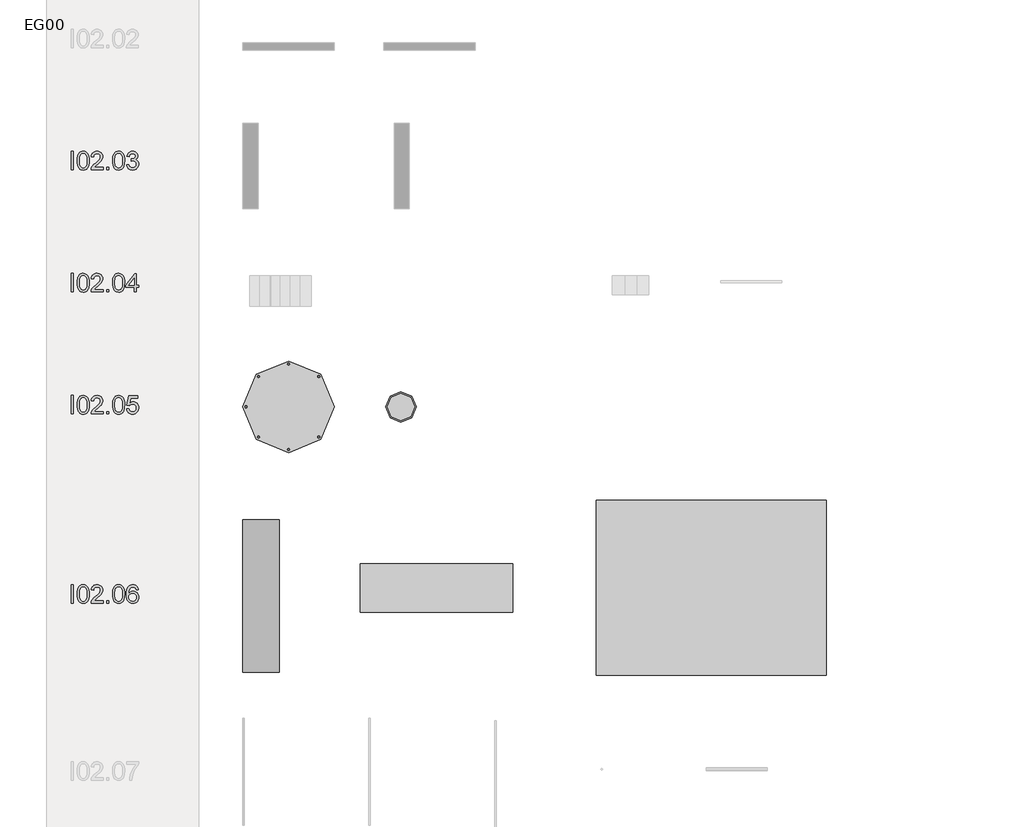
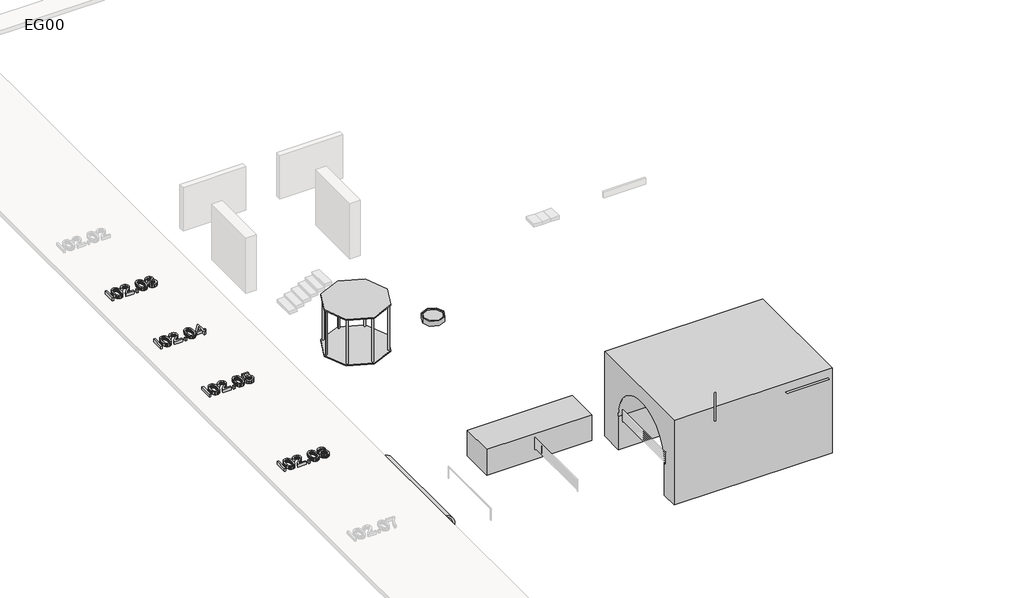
# One storey, part 10 of 11: 9 proxies.
"""IFC4 building model written with IfcOpenShell, lengths in millimetres."""

from ifc_helpers import new_model, si_unit, origin, origin_with_axes, place, context, project, spatial, polyline, outline, extrude, transform, mapped, element, save
from components import entourage_04cd11f9, generic_models_ce5f1fb5, generic_models_93f284b6, generic_models_26918fe7, generic_models_3f7ea370

model = new_model("IFC4")

# Units and contexts
model_context = context("Model", 3, world=origin())
ifc_project = project(units=[si_unit("LENGTHUNIT", "METRE", prefix="MILLI")], contexts=[model_context])

# Site, building, storey
site = spatial("IfcSite", under=ifc_project)
building = spatial("IfcBuilding", under=site)
storey = spatial("IfcBuildingStorey", under=building, Name="EG00", Elevation=0.0)

# Proxies
placement = place(None, origin())
entourage_shape = entourage_04cd11f9(model_context)
element("IfcBuildingElementProxy", 1, Name="Pavillon, Unterstand, Schuppen und dgl. : Pavillon, Unterstand, Schuppen und dgl.", ObjectType="Pavillon, Unterstand, Schuppen und dgl. : Pavillon, Unterstand, Schuppen und dgl.", at=placement, inside=storey, context=model_context, shape_type="MappedRepresentation", body=[
    mapped(entourage_shape, transform((48222.626143, -17838.697095, 10.0), x_axis=(-1.0, 0.0, 0.0), y_axis=(0.0, -1.0, 0.0), z_axis=(0.0, 0.0, 1.0))),
])
generic_models_shape = generic_models_ce5f1fb5(model_context)
element("IfcBuildingElementProxy", 2, Name="Wasserbecken : Wasserbecken", ObjectType="Wasserbecken : Wasserbecken", at=placement, inside=storey, context=model_context, shape_type="MappedRepresentation", body=[
    mapped(generic_models_shape, transform((51903.0325552, -17838.697095, 0.0), x_axis=(-1.0, 0.0, 0.0), y_axis=(0.0, -1.0, 0.0), z_axis=(0.0, 0.0, 1.0))),
])
generic_models_2_shape = generic_models_93f284b6(model_context)
element("IfcBuildingElementProxy", 3, Name="Stollen : Stollen", ObjectType="Stollen : Stollen", at=placement, inside=storey, context=model_context, shape_type="MappedRepresentation", body=[
    mapped(generic_models_2_shape, transform((58310.5909855, -26635.697095, 0.0), x_axis=(-1.0, 0.0, 0.0), y_axis=(0.0, -1.0, 0.0), z_axis=(0.0, 0.0, 1.0))),
])
generic_models_3_shape = generic_models_26918fe7(model_context)
element("IfcBuildingElementProxy", 4, Name="Fluchtröhre : Fluchtröhre", ObjectType="Fluchtröhre : Fluchtröhre", at=placement, inside=storey, context=model_context, shape_type="MappedRepresentation", body=[
    mapped(generic_models_3_shape, transform((47322.626143, -20832.697095, 0.0), x_axis=(-1.0, 0.0, 0.0), y_axis=(0.0, -1.0, 0.0), z_axis=(0.0, 0.0, 1.0))),
])
generic_models_4_shape = generic_models_3f7ea370(model_context)
element("IfcBuildingElementProxy", 5, Name="Brunnenstube : Brunnenstube", ObjectType="Brunnenstube : Brunnenstube", at=placement, inside=storey, context=model_context, shape_type="MappedRepresentation", body=[
    mapped(generic_models_4_shape, transform((50571.5909855, -24575.697095, 0.0), x_axis=(-1.0, 0.0, 0.0), y_axis=(0.0, -1.0, 0.0), z_axis=(0.0, 0.0, 1.0))),
])
element("IfcBuildingElementProxy", 6, Name="600mm Arial", ObjectType="600mm Arial", at=placement, inside=storey, context=model_context, shape_type="SweptSolid", body=[
    extrude(outline(polyline([(41098.4530284, -10070.0529019), (41098.4530284, -9467.315041), (41173.795261, -9467.315041), (41173.795261, -10070.0529019), (41098.4530284, -10070.0529019)])), origin_with_axes(), (0.0, 0.0, 1.0), 150.0),
    extrude(outline(polyline([(41296.226389, -9773.5400137), (41301.763013, -9677.0629605), (41308.6837931, -9636.1498841), (41318.3728851, -9600.1204412), (41330.7889025, -9568.6803262), (41345.8904584, -9541.5352335), (41363.6775528, -9518.6851631), (41384.1501859, -9500.1301149), (41407.3773353, -9485.7735201), (41433.4279791, -9475.5188095), (41462.3021172, -9469.3659831), (41493.9997496, -9467.315041), (41540.4264574, -9472.1710833), (41581.9971229, -9486.7392103), (41616.7619714, -9510.4492049), (41642.7712285, -9542.73085), (41662.416127, -9583.308234), (41678.0879, -9631.9054456), (41688.3518077, -9693.6176503), (41691.7731102, -9773.5400137), (41686.2916685, -9869.465244), (41679.4398663, -9910.2403646), (41669.8473433, -9946.2238223), (41657.527895, -9977.6777329), (41642.495317, -10004.8642123), (41624.7496092, -10027.7832606), (41604.2907718, -10046.4348778), (41581.0360312, -10060.8880417), (41554.9026139, -10071.2117301), (41525.8905201, -10077.4059432), (41493.9997496, -10079.4706809), (41452.5026606, -10075.8838315), (41415.7144611, -10065.1232831), (41383.6351511, -10047.1890359), (41356.2647306, -10022.0810897), (41329.9979562, -9976.6936485), (41311.2359744, -9920.1409888), (41299.9787854, -9852.4231106), (41296.226389, -9773.5400137)]), holes=[polyline([(41371.5686216, -9773.3928609), (41373.7759136, -9838.8896517), (41380.3977895, -9891.9060457), (41391.4342494, -9932.442043), (41406.8852932, -9960.4976437), (41425.5736985, -9979.5861207), (41446.3222431, -9993.2207472), (41469.1309268, -10001.401523), (41493.9997496, -10004.1284483), (41518.8685725, -10001.392326), (41541.6772562, -9993.183959), (41562.4258007, -9979.5033473), (41581.1142061, -9960.3504909), (41596.5652499, -9932.248905), (41607.6017097, -9891.7221047), (41614.2235857, -9838.77009), (41616.4308776, -9773.3928609), (41614.2971621, -9709.6297141), (41607.8960153, -9657.5468207), (41597.2274375, -9617.1441805), (41582.2914285, -9588.4217938), (41563.9157228, -9568.3998162), (41542.928055, -9554.0984036), (41519.328425, -9545.5175561), (41493.1168328, -9542.6572736), (41468.3767687, -9545.1772652), (41445.9543611, -9552.7372402), (41425.84961, -9565.3371986), (41408.0625156, -9582.9771402), (41392.096437, -9614.2471098), (41380.6920951, -9656.4063865), (41373.84949, -9709.4549702), (41371.5686216, -9773.3928609)])]), origin_with_axes(), (0.0, 0.0, 1.0), 150.0),
    extrude(outline(polyline([(42143.8265059, -9994.7106692), (42143.8265059, -10070.0529019), (41748.2797847, -10070.0529019), (41749.9352537, -10043.52861), (41756.3731886, -10018.1079641), (41774.9512293, -9977.512186), (41802.1377088, -9938.1304184), (41841.4642941, -9896.9092408), (41896.4626524, -9850.7952327), (41977.7645733, -9778.5799971), (42026.5457258, -9725.273896), (42040.773562, -9703.4952819), (42050.9363021, -9682.0109733), (42057.0339462, -9660.8209704), (42059.0664942, -9639.9252731), (42057.1489093, -9620.266579), (42051.3961546, -9602.1989745), (42041.8082301, -9585.7224596), (42028.3851358, -9570.8370344), (42011.8718328, -9558.508389), (41993.013282, -9549.7022138), (41971.8094835, -9544.4185086), (41948.2604373, -9542.6572736), (41923.4513952, -9544.3771219), (41901.2635124, -9549.5366669), (41881.6967888, -9558.1359085), (41864.7512244, -9570.1748468), (41851.0430215, -9585.2488116), (41841.1883826, -9602.9531326), (41835.1873075, -9623.2878099), (41833.0397964, -9646.2528434), (41757.6975638, -9636.8350643), (41764.1768854, -9597.9407404), (41775.9629048, -9563.9576411), (41793.055622, -9534.8857664), (41815.455037, -9510.7251164), (41842.646115, -9491.7332084), (41874.1138211, -9478.1675598), (41909.8581555, -9470.0281707), (41949.8791181, -9467.315041), (41990.2587655, -9470.3316733), (42026.1962379, -9479.3815704), (42057.6915353, -9494.4647322), (42084.7446575, -9515.5811587), (42106.4726878, -9541.1673515), (42121.9927095, -9569.659812), (42131.3047225, -9601.0585403), (42134.4087268, -9635.3635364), (42131.0610007, -9671.3975778), (42121.0178222, -9706.8062198), (42103.1939395, -9742.8218672), (42076.5041008, -9780.6769245), (42033.958548, -9825.8712276), (41968.5675234, -9883.9046123), (41881.8945253, -9956.3773654), (41847.902229, -9994.7106692), (42143.8265059, -9994.7106692)])), origin_with_axes(), (0.0, 0.0, 1.0), 150.0),
    extrude(outline(polyline([(42256.8398548, -10070.0529019), (42256.8398548, -9994.7106692), (42332.1820874, -9994.7106692), (42332.1820874, -10070.0529019), (42256.8398548, -10070.0529019)])), origin_with_axes(), (0.0, 0.0, 1.0), 150.0),
    extrude(outline(polyline([(42454.6132154, -9773.5400137), (42460.1498395, -9677.0629605), (42467.0706195, -9636.1498841), (42476.7597115, -9600.1204412), (42489.1757289, -9568.6803262), (42504.2772848, -9541.5352335), (42522.0643792, -9518.6851631), (42542.5370123, -9500.1301149), (42565.7641618, -9485.7735201), (42591.8148055, -9475.5188095), (42620.6889436, -9469.3659831), (42652.386576, -9467.315041), (42698.8132838, -9472.1710833), (42740.3839493, -9486.7392103), (42775.1487978, -9510.4492049), (42801.1580549, -9542.73085), (42820.8029534, -9583.308234), (42836.4747264, -9631.9054456), (42846.7386341, -9693.6176503), (42850.1599366, -9773.5400137), (42844.6784949, -9869.465244), (42837.8266928, -9910.2403646), (42828.2341697, -9946.2238223), (42815.9147214, -9977.6777329), (42800.8821434, -10004.8642123), (42783.1364357, -10027.7832606), (42762.6775982, -10046.4348778), (42739.4228576, -10060.8880417), (42713.2894403, -10071.2117301), (42684.2773465, -10077.4059432), (42652.386576, -10079.4706809), (42610.889487, -10075.8838315), (42574.1012875, -10065.1232831), (42542.0219775, -10047.1890359), (42514.651557, -10022.0810897), (42488.3847826, -9976.6936485), (42469.6228008, -9920.1409888), (42458.3656118, -9852.4231106), (42454.6132154, -9773.5400137)]), holes=[polyline([(42529.955448, -9773.3928609), (42532.16274, -9838.8896517), (42538.7846159, -9891.9060457), (42549.8210758, -9932.442043), (42565.2721196, -9960.4976437), (42583.9605249, -9979.5861207), (42604.7090695, -9993.2207472), (42627.5177532, -10001.401523), (42652.386576, -10004.1284483), (42677.2553989, -10001.392326), (42700.0640826, -9993.183959), (42720.8126271, -9979.5033473), (42739.5010325, -9960.3504909), (42754.9520763, -9932.248905), (42765.9885362, -9891.7221047), (42772.6104121, -9838.77009), (42774.817704, -9773.3928609), (42772.6839885, -9709.6297141), (42766.2828417, -9657.5468207), (42755.6142639, -9617.1441805), (42740.6782549, -9588.4217938), (42722.3025492, -9568.3998162), (42701.3148814, -9554.0984036), (42677.7152514, -9545.5175561), (42651.5036593, -9542.6572736), (42626.7635951, -9545.1772652), (42604.3411875, -9552.7372402), (42584.2364364, -9565.3371986), (42566.449342, -9582.9771402), (42550.4832634, -9614.2471098), (42539.0789215, -9656.4063865), (42532.2363164, -9709.4549702), (42529.955448, -9773.3928609)])]), origin_with_axes(), (0.0, 0.0, 1.0), 150.0),
    extrude(outline(polyline([(42916.0843902, -9909.9506576), (42991.4266228, -9900.5328785), (43008.2940123, -9947.8792913), (43019.6661644, -9965.7859474), (43032.9972882, -9979.8482366), (43048.5908863, -9990.4708293), (43066.7504613, -9998.0583954), (43087.4760132, -10002.6109351), (43110.767542, -10004.1284483), (43138.0643861, -10002.040718), (43162.4181742, -9995.777527), (43183.8289063, -9985.3388754), (43202.2965824, -9970.7247632), (43217.1682121, -9953.0296392), (43227.7908047, -9933.3479525), (43234.1643603, -9911.6797029), (43236.2888788, -9888.0248906), (43234.1827544, -9865.496717), (43227.8643811, -9845.0010913), (43217.333759, -9826.5380137), (43202.590888, -9810.1074841), (43184.6014585, -9796.6200104), (43164.3311605, -9786.9861007), (43141.7799942, -9781.2057548), (43116.9479595, -9779.2789729), (43093.1459945, -9781.339112), (43064.120105, -9787.5195296), (43072.5078145, -9712.177297), (43084.574344, -9713.0602137), (43129.7134648, -9707.6523484), (43170.0701197, -9691.4287524), (43186.6799917, -9679.1598879), (43198.5441861, -9663.9847556), (43205.6627027, -9645.9033555), (43208.0355416, -9624.9156877), (43206.3156932, -9607.8781528), (43201.1561482, -9592.3765252), (43192.5569066, -9578.410805), (43180.5179683, -9565.9809921), (43165.7659003, -9555.7768652), (43149.0272695, -9548.4882032), (43109.5903196, -9542.6572736), (43088.9337456, -9544.1288016), (43070.0797934, -9548.5433855), (43053.0284629, -9555.9010254), (43037.7797542, -9566.2017213), (43024.7107463, -9579.4454731), (43014.1985183, -9595.6322809), (43006.2430702, -9614.7621446), (43000.8444019, -9636.8350643), (42925.5021693, -9627.4172853), (42934.4325047, -9591.4476232), (42947.6854536, -9559.7637864), (42965.2610159, -9532.3657748), (42987.1591917, -9509.2535884), (43012.6902021, -9490.9054739), (43041.1642685, -9477.7996778), (43072.5813909, -9469.9362002), (43106.9415693, -9467.315041), (43154.3063762, -9472.483783), (43197.8084221, -9487.9900091), (43234.486257, -9512.4541618), (43261.3784309, -9544.4966836), (43277.8779383, -9581.4136418), (43283.3777742, -9620.5011038), (43278.1538498, -9656.9214213), (43262.4820768, -9689.9572244), (43236.5831844, -9718.1001971), (43200.6779017, -9739.842023), (43225.7858478, -9747.6963036), (43247.8403734, -9758.8983103), (43266.8414785, -9773.4480432), (43282.789163, -9791.3455023), (43295.4075154, -9812.1492291), (43304.4206243, -9835.4177653), (43309.8284896, -9861.1511109), (43311.6311114, -9889.3492658), (43308.0258678, -9927.5722051), (43297.2101372, -9962.7785121), (43279.1839194, -9994.9681866), (43253.9472146, -10024.1412289), (43223.2014768, -10048.3478641), (43188.6481604, -10065.6383179), (43150.2872654, -10076.0125902), (43108.1187917, -10079.4706809), (43070.006217, -10076.5184279), (43035.2781566, -10067.6616689), (43003.9346106, -10052.9004038), (42975.975579, -10032.2346328), (42952.5322989, -10006.8783662), (42934.7360073, -9978.0456149), (42922.5867044, -9945.7363786), (42916.0843902, -9909.9506576)])), origin_with_axes(), (0.0, 0.0, 1.0), 150.0),
])
element("IfcBuildingElementProxy", 7, Name="600mm Arial", ObjectType="600mm Arial", at=placement, inside=storey, context=model_context, shape_type="SweptSolid", body=[
    extrude(outline(polyline([(41098.4530284, -14070.0529019), (41098.4530284, -13467.315041), (41173.795261, -13467.315041), (41173.795261, -14070.0529019), (41098.4530284, -14070.0529019)])), origin_with_axes(), (0.0, 0.0, 1.0), 150.0),
    extrude(outline(polyline([(41296.226389, -13773.5400137), (41301.763013, -13677.0629605), (41308.6837931, -13636.1498841), (41318.3728851, -13600.1204412), (41330.7889025, -13568.6803262), (41345.8904584, -13541.5352335), (41363.6775528, -13518.6851631), (41384.1501859, -13500.1301149), (41407.3773353, -13485.7735201), (41433.4279791, -13475.5188095), (41462.3021172, -13469.3659831), (41493.9997496, -13467.315041), (41540.4264574, -13472.1710833), (41581.9971229, -13486.7392103), (41616.7619714, -13510.4492049), (41642.7712285, -13542.73085), (41662.416127, -13583.308234), (41678.0879, -13631.9054456), (41688.3518077, -13693.6176503), (41691.7731102, -13773.5400137), (41686.2916685, -13869.465244), (41679.4398663, -13910.2403646), (41669.8473433, -13946.2238223), (41657.527895, -13977.6777329), (41642.495317, -14004.8642123), (41624.7496092, -14027.7832606), (41604.2907718, -14046.4348778), (41581.0360312, -14060.8880417), (41554.9026139, -14071.2117301), (41525.8905201, -14077.4059432), (41493.9997496, -14079.4706809), (41452.5026606, -14075.8838315), (41415.7144611, -14065.1232831), (41383.6351511, -14047.1890359), (41356.2647306, -14022.0810897), (41329.9979562, -13976.6936485), (41311.2359744, -13920.1409888), (41299.9787854, -13852.4231106), (41296.226389, -13773.5400137)]), holes=[polyline([(41371.5686216, -13773.3928609), (41373.7759136, -13838.8896517), (41380.3977895, -13891.9060457), (41391.4342494, -13932.442043), (41406.8852932, -13960.4976437), (41425.5736985, -13979.5861207), (41446.3222431, -13993.2207472), (41469.1309268, -14001.401523), (41493.9997496, -14004.1284483), (41518.8685725, -14001.392326), (41541.6772562, -13993.183959), (41562.4258007, -13979.5033473), (41581.1142061, -13960.3504909), (41596.5652499, -13932.248905), (41607.6017097, -13891.7221047), (41614.2235857, -13838.77009), (41616.4308776, -13773.3928609), (41614.2971621, -13709.6297141), (41607.8960153, -13657.5468207), (41597.2274375, -13617.1441805), (41582.2914285, -13588.4217938), (41563.9157228, -13568.3998162), (41542.928055, -13554.0984036), (41519.328425, -13545.5175561), (41493.1168328, -13542.6572736), (41468.3767687, -13545.1772652), (41445.9543611, -13552.7372402), (41425.84961, -13565.3371986), (41408.0625156, -13582.9771402), (41392.096437, -13614.2471098), (41380.6920951, -13656.4063865), (41373.84949, -13709.4549702), (41371.5686216, -13773.3928609)])]), origin_with_axes(), (0.0, 0.0, 1.0), 150.0),
    extrude(outline(polyline([(42143.8265059, -13994.7106692), (42143.8265059, -14070.0529019), (41748.2797847, -14070.0529019), (41749.9352537, -14043.52861), (41756.3731886, -14018.1079641), (41774.9512293, -13977.512186), (41802.1377088, -13938.1304184), (41841.4642941, -13896.9092408), (41896.4626524, -13850.7952327), (41977.7645733, -13778.5799971), (42026.5457258, -13725.273896), (42040.773562, -13703.4952819), (42050.9363021, -13682.0109733), (42057.0339462, -13660.8209704), (42059.0664942, -13639.9252731), (42057.1489093, -13620.266579), (42051.3961546, -13602.1989745), (42041.8082301, -13585.7224596), (42028.3851358, -13570.8370344), (42011.8718328, -13558.508389), (41993.013282, -13549.7022138), (41971.8094835, -13544.4185086), (41948.2604373, -13542.6572736), (41923.4513952, -13544.3771219), (41901.2635124, -13549.5366669), (41881.6967888, -13558.1359085), (41864.7512244, -13570.1748468), (41851.0430215, -13585.2488116), (41841.1883826, -13602.9531326), (41835.1873075, -13623.2878099), (41833.0397964, -13646.2528434), (41757.6975638, -13636.8350643), (41764.1768854, -13597.9407404), (41775.9629048, -13563.9576411), (41793.055622, -13534.8857664), (41815.455037, -13510.7251164), (41842.646115, -13491.7332084), (41874.1138211, -13478.1675598), (41909.8581555, -13470.0281707), (41949.8791181, -13467.315041), (41990.2587655, -13470.3316733), (42026.1962379, -13479.3815704), (42057.6915353, -13494.4647322), (42084.7446575, -13515.5811587), (42106.4726878, -13541.1673515), (42121.9927095, -13569.659812), (42131.3047225, -13601.0585403), (42134.4087268, -13635.3635364), (42131.0610007, -13671.3975778), (42121.0178222, -13706.8062198), (42103.1939395, -13742.8218672), (42076.5041008, -13780.6769245), (42033.958548, -13825.8712276), (41968.5675234, -13883.9046123), (41881.8945253, -13956.3773654), (41847.902229, -13994.7106692), (42143.8265059, -13994.7106692)])), origin_with_axes(), (0.0, 0.0, 1.0), 150.0),
    extrude(outline(polyline([(42256.8398548, -14070.0529019), (42256.8398548, -13994.7106692), (42332.1820874, -13994.7106692), (42332.1820874, -14070.0529019), (42256.8398548, -14070.0529019)])), origin_with_axes(), (0.0, 0.0, 1.0), 150.0),
    extrude(outline(polyline([(42454.6132154, -13773.5400137), (42460.1498395, -13677.0629605), (42467.0706195, -13636.1498841), (42476.7597115, -13600.1204412), (42489.1757289, -13568.6803262), (42504.2772848, -13541.5352335), (42522.0643792, -13518.6851631), (42542.5370123, -13500.1301149), (42565.7641618, -13485.7735201), (42591.8148055, -13475.5188095), (42620.6889436, -13469.3659831), (42652.386576, -13467.315041), (42698.8132838, -13472.1710833), (42740.3839493, -13486.7392103), (42775.1487978, -13510.4492049), (42801.1580549, -13542.73085), (42820.8029534, -13583.308234), (42836.4747264, -13631.9054456), (42846.7386341, -13693.6176503), (42850.1599366, -13773.5400137), (42844.6784949, -13869.465244), (42837.8266928, -13910.2403646), (42828.2341697, -13946.2238223), (42815.9147214, -13977.6777329), (42800.8821434, -14004.8642123), (42783.1364357, -14027.7832606), (42762.6775982, -14046.4348778), (42739.4228576, -14060.8880417), (42713.2894403, -14071.2117301), (42684.2773465, -14077.4059432), (42652.386576, -14079.4706809), (42610.889487, -14075.8838315), (42574.1012875, -14065.1232831), (42542.0219775, -14047.1890359), (42514.651557, -14022.0810897), (42488.3847826, -13976.6936485), (42469.6228008, -13920.1409888), (42458.3656118, -13852.4231106), (42454.6132154, -13773.5400137)]), holes=[polyline([(42529.955448, -13773.3928609), (42532.16274, -13838.8896517), (42538.7846159, -13891.9060457), (42549.8210758, -13932.442043), (42565.2721196, -13960.4976437), (42583.9605249, -13979.5861207), (42604.7090695, -13993.2207472), (42627.5177532, -14001.401523), (42652.386576, -14004.1284483), (42677.2553989, -14001.392326), (42700.0640826, -13993.183959), (42720.8126271, -13979.5033473), (42739.5010325, -13960.3504909), (42754.9520763, -13932.248905), (42765.9885362, -13891.7221047), (42772.6104121, -13838.77009), (42774.817704, -13773.3928609), (42772.6839885, -13709.6297141), (42766.2828417, -13657.5468207), (42755.6142639, -13617.1441805), (42740.6782549, -13588.4217938), (42722.3025492, -13568.3998162), (42701.3148814, -13554.0984036), (42677.7152514, -13545.5175561), (42651.5036593, -13542.6572736), (42626.7635951, -13545.1772652), (42604.3411875, -13552.7372402), (42584.2364364, -13565.3371986), (42566.449342, -13582.9771402), (42550.4832634, -13614.2471098), (42539.0789215, -13656.4063865), (42532.2363164, -13709.4549702), (42529.955448, -13773.3928609)])]), origin_with_axes(), (0.0, 0.0, 1.0), 150.0),
    extrude(outline(polyline([(43160.9466462, -14070.0529019), (43160.9466462, -13928.7862157), (42887.831053, -13928.7862157), (42887.831053, -13853.4439831), (43179.7822043, -13476.73282), (43236.2888788, -13476.73282), (43236.2888788, -13853.4439831), (43311.6311114, -13853.4439831), (43311.6311114, -13928.7862157), (43236.2888788, -13928.7862157), (43236.2888788, -14070.0529019), (43160.9466462, -14070.0529019)]), holes=[polyline([(43160.9466462, -13853.4439831), (43160.9466462, -13620.6482566), (42980.5373157, -13853.4439831), (43160.9466462, -13853.4439831)])]), origin_with_axes(), (0.0, 0.0, 1.0), 150.0),
])
element("IfcBuildingElementProxy", 8, Name="600mm Arial", ObjectType="600mm Arial", at=placement, inside=storey, context=model_context, shape_type="SweptSolid", body=[
    extrude(outline(polyline([(41098.4530284, -18070.0529019), (41098.4530284, -17467.315041), (41173.795261, -17467.315041), (41173.795261, -18070.0529019), (41098.4530284, -18070.0529019)])), origin_with_axes(), (0.0, 0.0, 1.0), 150.0),
    extrude(outline(polyline([(41296.226389, -17773.5400137), (41301.763013, -17677.0629605), (41308.6837931, -17636.1498841), (41318.3728851, -17600.1204412), (41330.7889025, -17568.6803262), (41345.8904584, -17541.5352335), (41363.6775528, -17518.6851631), (41384.1501859, -17500.1301149), (41407.3773353, -17485.7735201), (41433.4279791, -17475.5188095), (41462.3021172, -17469.3659831), (41493.9997496, -17467.315041), (41540.4264574, -17472.1710833), (41581.9971229, -17486.7392103), (41616.7619714, -17510.4492049), (41642.7712285, -17542.73085), (41662.416127, -17583.308234), (41678.0879, -17631.9054456), (41688.3518077, -17693.6176503), (41691.7731102, -17773.5400137), (41686.2916685, -17869.465244), (41679.4398663, -17910.2403646), (41669.8473433, -17946.2238223), (41657.527895, -17977.6777329), (41642.495317, -18004.8642123), (41624.7496092, -18027.7832606), (41604.2907718, -18046.4348778), (41581.0360312, -18060.8880417), (41554.9026139, -18071.2117301), (41525.8905201, -18077.4059432), (41493.9997496, -18079.4706809), (41452.5026606, -18075.8838315), (41415.7144611, -18065.1232831), (41383.6351511, -18047.1890359), (41356.2647306, -18022.0810897), (41329.9979562, -17976.6936485), (41311.2359744, -17920.1409888), (41299.9787854, -17852.4231106), (41296.226389, -17773.5400137)]), holes=[polyline([(41371.5686216, -17773.3928609), (41373.7759136, -17838.8896517), (41380.3977895, -17891.9060457), (41391.4342494, -17932.442043), (41406.8852932, -17960.4976437), (41425.5736985, -17979.5861207), (41446.3222431, -17993.2207472), (41469.1309268, -18001.401523), (41493.9997496, -18004.1284483), (41518.8685725, -18001.392326), (41541.6772562, -17993.183959), (41562.4258007, -17979.5033473), (41581.1142061, -17960.3504909), (41596.5652499, -17932.248905), (41607.6017097, -17891.7221047), (41614.2235857, -17838.77009), (41616.4308776, -17773.3928609), (41614.2971621, -17709.6297141), (41607.8960153, -17657.5468207), (41597.2274375, -17617.1441805), (41582.2914285, -17588.4217938), (41563.9157228, -17568.3998162), (41542.928055, -17554.0984036), (41519.328425, -17545.5175561), (41493.1168328, -17542.6572736), (41468.3767687, -17545.1772652), (41445.9543611, -17552.7372402), (41425.84961, -17565.3371986), (41408.0625156, -17582.9771402), (41392.096437, -17614.2471098), (41380.6920951, -17656.4063865), (41373.84949, -17709.4549702), (41371.5686216, -17773.3928609)])]), origin_with_axes(), (0.0, 0.0, 1.0), 150.0),
    extrude(outline(polyline([(42143.8265059, -17994.7106692), (42143.8265059, -18070.0529019), (41748.2797847, -18070.0529019), (41749.9352537, -18043.52861), (41756.3731886, -18018.1079641), (41774.9512293, -17977.512186), (41802.1377088, -17938.1304184), (41841.4642941, -17896.9092408), (41896.4626524, -17850.7952327), (41977.7645733, -17778.5799971), (42026.5457258, -17725.273896), (42040.773562, -17703.4952819), (42050.9363021, -17682.0109733), (42057.0339462, -17660.8209704), (42059.0664942, -17639.9252731), (42057.1489093, -17620.266579), (42051.3961546, -17602.1989745), (42041.8082301, -17585.7224596), (42028.3851358, -17570.8370344), (42011.8718328, -17558.508389), (41993.013282, -17549.7022138), (41971.8094835, -17544.4185086), (41948.2604373, -17542.6572736), (41923.4513952, -17544.3771219), (41901.2635124, -17549.5366669), (41881.6967888, -17558.1359085), (41864.7512244, -17570.1748468), (41851.0430215, -17585.2488116), (41841.1883826, -17602.9531326), (41835.1873075, -17623.2878099), (41833.0397964, -17646.2528434), (41757.6975638, -17636.8350643), (41764.1768854, -17597.9407404), (41775.9629048, -17563.9576411), (41793.055622, -17534.8857664), (41815.455037, -17510.7251164), (41842.646115, -17491.7332084), (41874.1138211, -17478.1675598), (41909.8581555, -17470.0281707), (41949.8791181, -17467.315041), (41990.2587655, -17470.3316733), (42026.1962379, -17479.3815704), (42057.6915353, -17494.4647322), (42084.7446575, -17515.5811587), (42106.4726878, -17541.1673515), (42121.9927095, -17569.659812), (42131.3047225, -17601.0585403), (42134.4087268, -17635.3635364), (42131.0610007, -17671.3975778), (42121.0178222, -17706.8062198), (42103.1939395, -17742.8218672), (42076.5041008, -17780.6769245), (42033.958548, -17825.8712276), (41968.5675234, -17883.9046123), (41881.8945253, -17956.3773654), (41847.902229, -17994.7106692), (42143.8265059, -17994.7106692)])), origin_with_axes(), (0.0, 0.0, 1.0), 150.0),
    extrude(outline(polyline([(42256.8398548, -18070.0529019), (42256.8398548, -17994.7106692), (42332.1820874, -17994.7106692), (42332.1820874, -18070.0529019), (42256.8398548, -18070.0529019)])), origin_with_axes(), (0.0, 0.0, 1.0), 150.0),
    extrude(outline(polyline([(42454.6132154, -17773.5400137), (42460.1498395, -17677.0629605), (42467.0706195, -17636.1498841), (42476.7597115, -17600.1204412), (42489.1757289, -17568.6803262), (42504.2772848, -17541.5352335), (42522.0643792, -17518.6851631), (42542.5370123, -17500.1301149), (42565.7641618, -17485.7735201), (42591.8148055, -17475.5188095), (42620.6889436, -17469.3659831), (42652.386576, -17467.315041), (42698.8132838, -17472.1710833), (42740.3839493, -17486.7392103), (42775.1487978, -17510.4492049), (42801.1580549, -17542.73085), (42820.8029534, -17583.308234), (42836.4747264, -17631.9054456), (42846.7386341, -17693.6176503), (42850.1599366, -17773.5400137), (42844.6784949, -17869.465244), (42837.8266928, -17910.2403646), (42828.2341697, -17946.2238223), (42815.9147214, -17977.6777329), (42800.8821434, -18004.8642123), (42783.1364357, -18027.7832606), (42762.6775982, -18046.4348778), (42739.4228576, -18060.8880417), (42713.2894403, -18071.2117301), (42684.2773465, -18077.4059432), (42652.386576, -18079.4706809), (42610.889487, -18075.8838315), (42574.1012875, -18065.1232831), (42542.0219775, -18047.1890359), (42514.651557, -18022.0810897), (42488.3847826, -17976.6936485), (42469.6228008, -17920.1409888), (42458.3656118, -17852.4231106), (42454.6132154, -17773.5400137)]), holes=[polyline([(42529.955448, -17773.3928609), (42532.16274, -17838.8896517), (42538.7846159, -17891.9060457), (42549.8210758, -17932.442043), (42565.2721196, -17960.4976437), (42583.9605249, -17979.5861207), (42604.7090695, -17993.2207472), (42627.5177532, -18001.401523), (42652.386576, -18004.1284483), (42677.2553989, -18001.392326), (42700.0640826, -17993.183959), (42720.8126271, -17979.5033473), (42739.5010325, -17960.3504909), (42754.9520763, -17932.248905), (42765.9885362, -17891.7221047), (42772.6104121, -17838.77009), (42774.817704, -17773.3928609), (42772.6839885, -17709.6297141), (42766.2828417, -17657.5468207), (42755.6142639, -17617.1441805), (42740.6782549, -17588.4217938), (42722.3025492, -17568.3998162), (42701.3148814, -17554.0984036), (42677.7152514, -17545.5175561), (42651.5036593, -17542.6572736), (42626.7635951, -17545.1772652), (42604.3411875, -17552.7372402), (42584.2364364, -17565.3371986), (42566.449342, -17582.9771402), (42550.4832634, -17614.2471098), (42539.0789215, -17656.4063865), (42532.2363164, -17709.4549702), (42529.955448, -17773.3928609)])]), origin_with_axes(), (0.0, 0.0, 1.0), 150.0),
    extrude(outline(polyline([(42916.0843902, -17909.9506576), (42991.4266228, -17900.5328785), (42997.0552173, -17924.7533093), (43005.2589858, -17945.7639698), (43016.0379283, -17963.5648598), (43029.3920447, -17978.1559795), (43045.2937439, -17989.5189346), (43063.7154348, -17997.6353311), (43084.6571174, -18002.505169), (43108.1187917, -18004.1284483), (43136.8135873, -18001.8705726), (43162.1238686, -17995.0969453), (43184.0496355, -17983.8075666), (43202.590888, -17968.0024364), (43217.333759, -17948.4633039), (43227.8643811, -17925.9719184), (43234.1827544, -17900.52828), (43236.2888788, -17872.1323885), (43234.3161116, -17845.2953969), (43228.39781, -17821.4382495), (43218.533974, -17800.5609463), (43204.7246036, -17782.6634872), (43186.9237136, -17768.3068924), (43165.0853186, -17758.0521818), (43139.2094188, -17751.8993554), (43109.296014, -17749.8484133), (43072.7469378, -17753.122563), (43043.1508313, -17762.9450123), (43019.5144131, -17777.9913859), (43000.8444019, -17796.9373086), (42925.5021693, -17787.5195296), (42991.4266228, -17476.73282), (43283.3777742, -17476.73282), (43283.3777742, -17552.0750527), (43052.3478812, -17552.0750527), (43020.1214184, -17718.0634089), (43046.7100896, -17699.0071215), (43073.9425543, -17685.3954877), (43101.8188125, -17677.2285074), (43130.3388642, -17674.5061806), (43167.0304947, -17677.881498), (43200.733084, -17688.0074499), (43231.446632, -17704.8840364), (43259.1711389, -17728.5112575), (43282.1223769, -17757.4451765), (43298.5161183, -17790.2418563), (43308.3523631, -17826.9012971), (43311.6311114, -17867.4234989), (43308.6788584, -17906.4557786), (43299.8220994, -17942.7657315), (43285.0608343, -17976.3533577), (43264.3950632, -18007.2186571), (43233.0883054, -18038.8289175), (43196.5576233, -18061.407675), (43154.8030169, -18074.9549294), (43107.8244861, -18079.4706809), (43068.9439577, -18076.5690117), (43033.8250227, -18067.864004), (43002.4676812, -18053.3556578), (42974.871933, -18033.0439731), (42951.911498, -18007.9406255), (42934.4600958, -17979.0572904), (42922.5177266, -17946.3939677), (42916.0843902, -17909.9506576)])), origin_with_axes(), (0.0, 0.0, 1.0), 150.0),
])
element("IfcBuildingElementProxy", 9, Name="600mm Arial", ObjectType="600mm Arial", at=placement, inside=storey, context=model_context, shape_type="SweptSolid", body=[
    extrude(outline(polyline([(41098.4530284, -24270.0529019), (41098.4530284, -23667.315041), (41173.795261, -23667.315041), (41173.795261, -24270.0529019), (41098.4530284, -24270.0529019)])), origin_with_axes(), (0.0, 0.0, 1.0), 150.0),
    extrude(outline(polyline([(41296.226389, -23973.5400137), (41301.763013, -23877.0629605), (41308.6837931, -23836.1498841), (41318.3728851, -23800.1204412), (41330.7889025, -23768.6803262), (41345.8904584, -23741.5352335), (41363.6775528, -23718.6851631), (41384.1501859, -23700.1301149), (41407.3773353, -23685.7735201), (41433.4279791, -23675.5188095), (41462.3021172, -23669.3659831), (41493.9997496, -23667.315041), (41540.4264574, -23672.1710833), (41581.9971229, -23686.7392103), (41616.7619714, -23710.4492049), (41642.7712285, -23742.73085), (41662.416127, -23783.308234), (41678.0879, -23831.9054456), (41688.3518077, -23893.6176503), (41691.7731102, -23973.5400137), (41686.2916685, -24069.465244), (41679.4398663, -24110.2403646), (41669.8473433, -24146.2238223), (41657.527895, -24177.6777329), (41642.495317, -24204.8642123), (41624.7496092, -24227.7832606), (41604.2907718, -24246.4348778), (41581.0360312, -24260.8880417), (41554.9026139, -24271.2117301), (41525.8905201, -24277.4059432), (41493.9997496, -24279.4706809), (41452.5026606, -24275.8838315), (41415.7144611, -24265.1232831), (41383.6351511, -24247.1890359), (41356.2647306, -24222.0810897), (41329.9979562, -24176.6936485), (41311.2359744, -24120.1409888), (41299.9787854, -24052.4231106), (41296.226389, -23973.5400137)]), holes=[polyline([(41371.5686216, -23973.3928609), (41373.7759136, -24038.8896517), (41380.3977895, -24091.9060457), (41391.4342494, -24132.442043), (41406.8852932, -24160.4976437), (41425.5736985, -24179.5861207), (41446.3222431, -24193.2207472), (41469.1309268, -24201.401523), (41493.9997496, -24204.1284483), (41518.8685725, -24201.392326), (41541.6772562, -24193.183959), (41562.4258007, -24179.5033473), (41581.1142061, -24160.3504909), (41596.5652499, -24132.248905), (41607.6017097, -24091.7221047), (41614.2235857, -24038.77009), (41616.4308776, -23973.3928609), (41614.2971621, -23909.6297141), (41607.8960153, -23857.5468207), (41597.2274375, -23817.1441805), (41582.2914285, -23788.4217938), (41563.9157228, -23768.3998162), (41542.928055, -23754.0984036), (41519.328425, -23745.5175561), (41493.1168328, -23742.6572736), (41468.3767687, -23745.1772652), (41445.9543611, -23752.7372402), (41425.84961, -23765.3371986), (41408.0625156, -23782.9771402), (41392.096437, -23814.2471098), (41380.6920951, -23856.4063865), (41373.84949, -23909.4549702), (41371.5686216, -23973.3928609)])]), origin_with_axes(), (0.0, 0.0, 1.0), 150.0),
    extrude(outline(polyline([(42143.8265059, -24194.7106692), (42143.8265059, -24270.0529019), (41748.2797847, -24270.0529019), (41749.9352537, -24243.52861), (41756.3731886, -24218.1079641), (41774.9512293, -24177.512186), (41802.1377088, -24138.1304184), (41841.4642941, -24096.9092408), (41896.4626524, -24050.7952327), (41977.7645733, -23978.5799971), (42026.5457258, -23925.273896), (42040.773562, -23903.4952819), (42050.9363021, -23882.0109733), (42057.0339462, -23860.8209704), (42059.0664942, -23839.9252731), (42057.1489093, -23820.266579), (42051.3961546, -23802.1989745), (42041.8082301, -23785.7224596), (42028.3851358, -23770.8370344), (42011.8718328, -23758.508389), (41993.013282, -23749.7022138), (41971.8094835, -23744.4185086), (41948.2604373, -23742.6572736), (41923.4513952, -23744.3771219), (41901.2635124, -23749.5366669), (41881.6967888, -23758.1359085), (41864.7512244, -23770.1748468), (41851.0430215, -23785.2488116), (41841.1883826, -23802.9531326), (41835.1873075, -23823.2878099), (41833.0397964, -23846.2528434), (41757.6975638, -23836.8350643), (41764.1768854, -23797.9407404), (41775.9629048, -23763.9576411), (41793.055622, -23734.8857664), (41815.455037, -23710.7251164), (41842.646115, -23691.7332084), (41874.1138211, -23678.1675598), (41909.8581555, -23670.0281707), (41949.8791181, -23667.315041), (41990.2587655, -23670.3316733), (42026.1962379, -23679.3815704), (42057.6915353, -23694.4647322), (42084.7446575, -23715.5811587), (42106.4726878, -23741.1673515), (42121.9927095, -23769.659812), (42131.3047225, -23801.0585403), (42134.4087268, -23835.3635364), (42131.0610007, -23871.3975778), (42121.0178222, -23906.8062198), (42103.1939395, -23942.8218672), (42076.5041008, -23980.6769245), (42033.958548, -24025.8712276), (41968.5675234, -24083.9046123), (41881.8945253, -24156.3773654), (41847.902229, -24194.7106692), (42143.8265059, -24194.7106692)])), origin_with_axes(), (0.0, 0.0, 1.0), 150.0),
    extrude(outline(polyline([(42256.8398548, -24270.0529019), (42256.8398548, -24194.7106692), (42332.1820874, -24194.7106692), (42332.1820874, -24270.0529019), (42256.8398548, -24270.0529019)])), origin_with_axes(), (0.0, 0.0, 1.0), 150.0),
    extrude(outline(polyline([(42454.6132154, -23973.5400137), (42460.1498395, -23877.0629605), (42467.0706195, -23836.1498841), (42476.7597115, -23800.1204412), (42489.1757289, -23768.6803262), (42504.2772848, -23741.5352335), (42522.0643792, -23718.6851631), (42542.5370123, -23700.1301149), (42565.7641618, -23685.7735201), (42591.8148055, -23675.5188095), (42620.6889436, -23669.3659831), (42652.386576, -23667.315041), (42698.8132838, -23672.1710833), (42740.3839493, -23686.7392103), (42775.1487978, -23710.4492049), (42801.1580549, -23742.73085), (42820.8029534, -23783.308234), (42836.4747264, -23831.9054456), (42846.7386341, -23893.6176503), (42850.1599366, -23973.5400137), (42844.6784949, -24069.465244), (42837.8266928, -24110.2403646), (42828.2341697, -24146.2238223), (42815.9147214, -24177.6777329), (42800.8821434, -24204.8642123), (42783.1364357, -24227.7832606), (42762.6775982, -24246.4348778), (42739.4228576, -24260.8880417), (42713.2894403, -24271.2117301), (42684.2773465, -24277.4059432), (42652.386576, -24279.4706809), (42610.889487, -24275.8838315), (42574.1012875, -24265.1232831), (42542.0219775, -24247.1890359), (42514.651557, -24222.0810897), (42488.3847826, -24176.6936485), (42469.6228008, -24120.1409888), (42458.3656118, -24052.4231106), (42454.6132154, -23973.5400137)]), holes=[polyline([(42529.955448, -23973.3928609), (42532.16274, -24038.8896517), (42538.7846159, -24091.9060457), (42549.8210758, -24132.442043), (42565.2721196, -24160.4976437), (42583.9605249, -24179.5861207), (42604.7090695, -24193.2207472), (42627.5177532, -24201.401523), (42652.386576, -24204.1284483), (42677.2553989, -24201.392326), (42700.0640826, -24193.183959), (42720.8126271, -24179.5033473), (42739.5010325, -24160.3504909), (42754.9520763, -24132.248905), (42765.9885362, -24091.7221047), (42772.6104121, -24038.77009), (42774.817704, -23973.3928609), (42772.6839885, -23909.6297141), (42766.2828417, -23857.5468207), (42755.6142639, -23817.1441805), (42740.6782549, -23788.4217938), (42722.3025492, -23768.3998162), (42701.3148814, -23754.0984036), (42677.7152514, -23745.5175561), (42651.5036593, -23742.6572736), (42626.7635951, -23745.1772652), (42604.3411875, -23752.7372402), (42584.2364364, -23765.3371986), (42566.449342, -23782.9771402), (42550.4832634, -23814.2471098), (42539.0789215, -23856.4063865), (42532.2363164, -23909.4549702), (42529.955448, -23973.3928609)])]), origin_with_axes(), (0.0, 0.0, 1.0), 150.0),
    extrude(outline(polyline([(43302.2133323, -23827.4172853), (43226.8710997, -23836.8350643), (43214.7309939, -23799.4950418), (43198.3234569, -23774.0008196), (43182.127452, -23760.2880182), (43164.1472195, -23750.4931601), (43144.3827593, -23744.6162452), (43122.8340715, -23742.6572736), (43087.8117055, -23747.2190103), (43054.8494788, -23760.9042205), (43026.5409592, -23789.7277749), (43003.4195758, -23829.403848), (42994.3834743, -23854.7095308), (42987.8029851, -23885.5242464), (42982.0088437, -23963.6807763), (43012.2303496, -23928.419287), (43048.448332, -23903.5688583), (43088.63944, -23888.8351844), (43130.7803226, -23883.9239597), (43166.9799109, -23887.2808829), (43200.3835961, -23897.3516525), (43230.9913781, -23914.1362686), (43258.8032569, -23937.634731), (43281.9154432, -23966.4490883), (43298.4241478, -23999.1813888), (43308.3293705, -24035.8316326), (43311.6311114, -24076.3998196), (43310.07681, -24103.8668091), (43305.4139057, -24130.3497142), (43297.6423985, -24155.848535), (43286.7622885, -24180.3632714), (43273.1598518, -24202.9788171), (43257.2213643, -24222.7800655), (43238.9468262, -24239.7670166), (43218.3362374, -24253.9396705), (43195.8310564, -24265.1094875), (43171.8727414, -24273.0879283), (43146.4612926, -24277.8749928), (43119.5967099, -24279.4706809), (43074.6829168, -24275.240038), (43034.1193283, -24262.5481092), (42997.9059444, -24241.3948944), (42966.0427651, -24211.7803938), (42940.0656977, -24172.4538085), (42921.5106496, -24122.1643398), (42910.3776207, -24060.9119876), (42906.6666111, -23988.6967519), (42910.7868895, -23907.7351219), (42923.1477245, -23838.6376861), (42943.7491162, -23781.4044447), (42957.1400208, -23757.2368969), (42972.5910646, -23736.0353977), (43003.8518372, -23705.9702416), (43040.0974108, -23684.4951301), (43081.3277854, -23671.6100633), (43127.542961, -23667.315041), (43162.2434302, -23669.9729884), (43193.6513555, -23677.9468306), (43221.766737, -23691.2365677), (43246.5895746, -23709.8421996), (43267.4484838, -23733.1383269), (43283.6720798, -23760.4995503), (43295.2603626, -23791.9258698), (43302.2133323, -23827.4172853)]), holes=[polyline([(42982.0088437, -24075.2225972), (42986.3682454, -24108.6078883), (42999.4464503, -24140.4848632), (43019.7535364, -24167.8920718), (43045.7995817, -24187.8680641), (43077.2350982, -24200.0633523), (43113.710598, -24204.1284483), (43139.8991975, -24202.0223239), (43163.4298496, -24195.7039506), (43184.3025543, -24185.1733285), (43202.5173116, -24170.4304576), (43217.2923723, -24152.073146), (43227.845987, -24130.6992021), (43234.1781558, -24106.3086258), (43236.2888788, -24078.9014172), (43234.205747, -24052.5656648), (43227.9563516, -24029.1821655), (43217.5406926, -24008.7509192), (43202.95877, -23991.2719259), (43184.6888304, -23977.2694175), (43163.2091204, -23967.2676257), (43138.51964, -23961.2665507), (43110.6203892, -23959.2661923), (43084.7812776, -23961.2665507), (43060.974714, -23967.2676257), (43039.2006984, -23977.2694175), (43019.4592308, -23991.2719259), (43003.0746865, -24008.520993), (42991.3714405, -24028.2624605), (42984.3494929, -24050.4963286), (42982.0088437, -24075.2225972)])]), origin_with_axes(), (0.0, 0.0, 1.0), 150.0),
])

save(model, "model.ifc")
